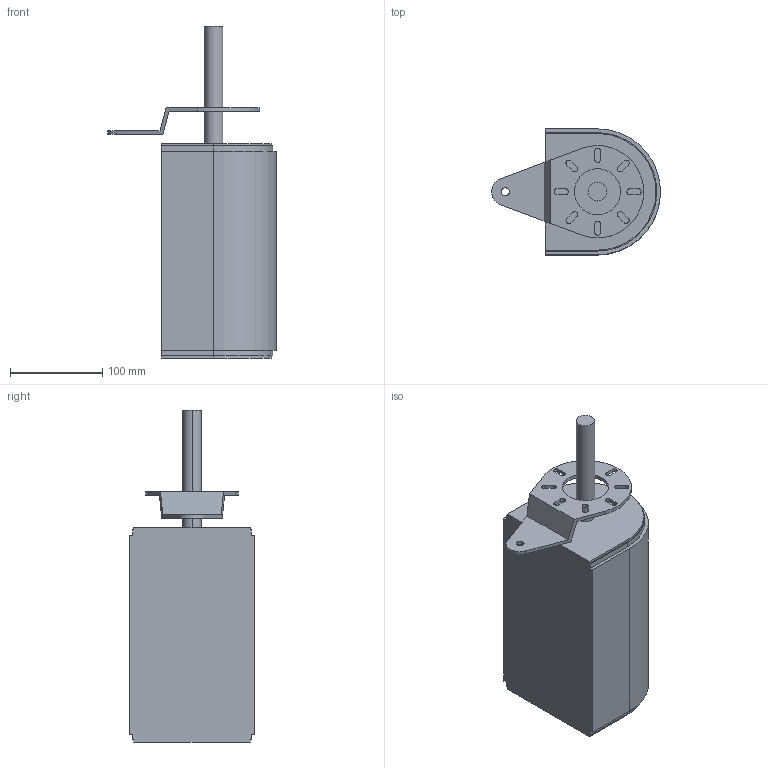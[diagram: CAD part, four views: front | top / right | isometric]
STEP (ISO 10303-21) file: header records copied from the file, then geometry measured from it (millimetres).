
FILE_DESCRIPTION (( 'STEP AP214' ), '1' );
FILE_NAME ('FS-MTC2-150-INOX Aandrijving & omloop.230 aandr rechts ra.STEP', '2017-02-08T12:38:34', ( '' ), ( '' ), 'SwSTEP 2.0', 'SolidWorks 2016', '' );
FILE_SCHEMA (( 'AUTOMOTIVE_DESIGN' ));
Length unit declared in the file: millimetre
Products named in the file (1): FS-MTC2-150-INOX Aandrijving & omloop.230 aandr rechts ra
Bounding box: 183.25 x 136.5 x 360 mm (x, y, z)
Volume: 3558253.3 mm3; surface area: 168990.9 mm2
Topology: 2 solids, 2 shells, 78 faces, 219 edges, 146 vertices
Faces by surface type: plane 42, cylinder 36
Entity records: 2618 total; most frequent: DIRECTION 449, CARTESIAN_POINT 444, ORIENTED_EDGE 438, EDGE_CURVE 219, AXIS2_PLACEMENT_3D 151, LINE 147, VECTOR 147, VERTEX_POINT 146
